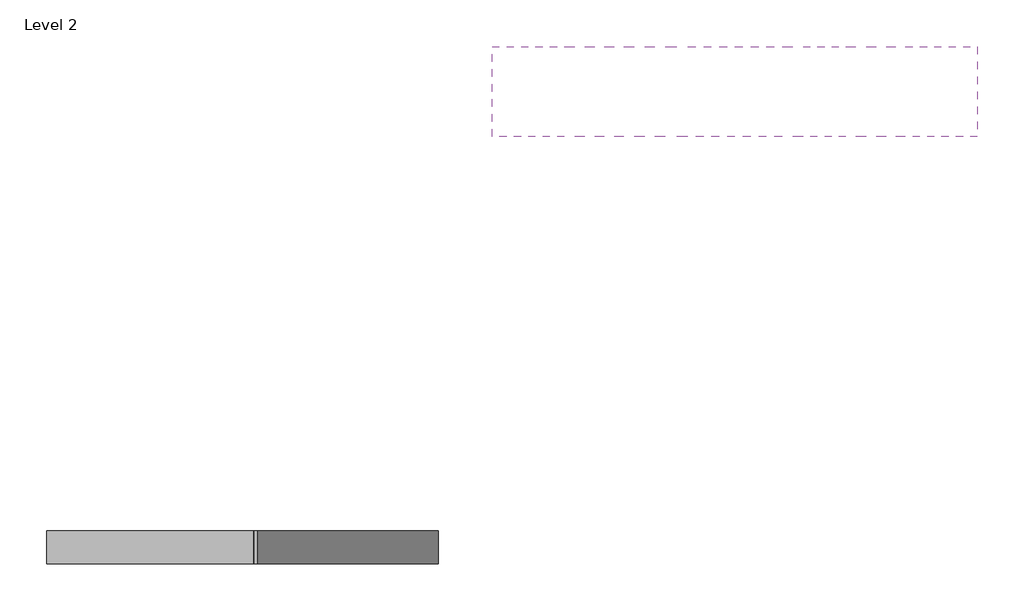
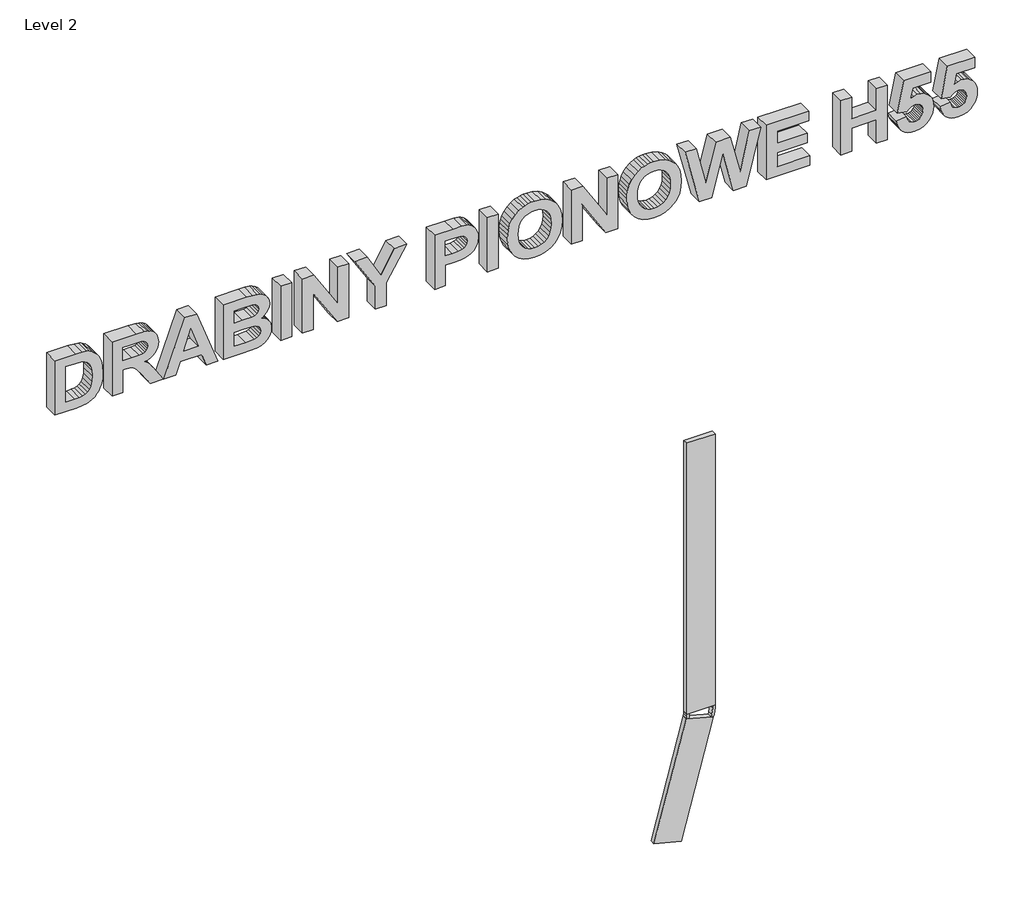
# One storey: 2 cable carrier segments, 1 cable carrier fitting, 1 proxy.
"""IFC4 building model written with IfcOpenShell, lengths in millimetres."""

from ifc_helpers import new_model, si_unit, frame, origin, place, context, project, spatial, polyline, outline, extrude, transform, mapped, element, save
from components import standard_x2_db8cc8cd

model = new_model("IFC4")

# Units and contexts
model_context = context("Model", 3, world=origin())
ifc_project = project(units=[si_unit("LENGTHUNIT", "METRE", prefix="MILLI")], contexts=[model_context])

# Site, building, storey
site = spatial("IfcSite", under=ifc_project)
building = spatial("IfcBuilding", under=site)
storey = spatial("IfcBuildingStorey", under=building, Name="Level 2", Elevation=4000.0)

# Proxy
placement = place(None, origin())
element("IfcBuildingElementProxy", 1, Name="600mm Arial", ObjectType="600mm Arial", at=placement, inside=storey, context=model_context, shape_type="SweptSolid", body=[
    extrude(outline(polyline([(9657.457041, 35660.5091859), (9045.301401, 35660.5091859), (9045.301401, 35893.8631587), (9048.5276677, 35955.6936112), (9058.2064679, 36003.6321388), (9079.2341355, 36052.8991292), (9107.0938974, 36090.7792959), (9129.3361597, 36110.9529518), (9154.7667325, 36128.6594626), (9183.385616, 36143.8988283), (9215.1928101, 36156.6710488), (9275.1634147, 36170.7907101), (9345.4580727, 36175.4972639), (9424.6913874, 36170.4680835), (9459.1697405, 36164.1816079), (9490.2225575, 36155.3805421), (9544.347926, 36130.6521567), (9567.9945631, 36114.8292164), (9589.3638355, 36096.7004442), (9608.0619489, 36076.4508761), (9623.6951089, 36054.265548), (9636.2633155, 36030.1444599), (9645.7665687, 36004.0876118), (9654.5344229, 35954.7447092), (9657.457041, 35887.1828888), (9657.457041, 35660.5091859)]), holes=[polyline([(9550.5727229, 35777.1102601), (9550.5727229, 35836.9290404), (9549.1303919, 35904.8324655), (9544.8033989, 35946.0907233), (9534.0997847, 35980.156304), (9516.5640763, 36007.6554832), (9491.5130642, 36029.1955579), (9458.2635391, 36045.3838256), (9412.8301127, 36055.5180986), (9351.2273967, 36058.8961896), (9288.7516909, 36055.5180986), (9241.0029437, 36045.3838256), (9206.2921096, 36029.9167234), (9182.930143, 36010.5401452), (9167.8426017, 35986.4570131), (9157.9550431, 35956.8702496), (9153.6280501, 35924.3798461), (9152.1857191, 35876.4033625), (9152.1857191, 35777.1102601), (9550.5727229, 35777.1102601)])]), frame((0.0, 3646.5667139, 0.0), z_axis=(0.0, 1.0, 0.0), x_axis=(0.0, 0.0, 1.0)), (0.0, 0.0, 1.0), 150.0),
    extrude(outline(polyline([(9045.301401, 36272.6648258), (9045.301401, 36389.2659001), (9297.937062, 36389.2659001), (9297.937062, 36415.9869796), (9296.3429067, 36455.4043675), (9291.5604407, 36482.561942), (9282.5079159, 36503.0202685), (9268.103584, 36522.3399126), (9238.8204691, 36549.1179263), (9185.1315956, 36591.9513613), (9045.301401, 36680.6167615), (9045.301401, 36816.8031725), (9164.0280157, 36741.9537849), (9224.2643129, 36705.2882128), (9262.8656451, 36676.9729779), (9289.5108125, 36649.6066451), (9313.8786151, 36615.7877788), (9321.8114356, 36651.4522594), (9333.9194247, 36682.3817192), (9350.2025826, 36708.5761581), (9370.6609091, 36730.0355762), (9394.7155741, 36746.7409954), (9421.7877473, 36758.6734377), (9451.8774288, 36765.8329031), (9484.9846186, 36768.2193915), (9511.5443848, 36766.5683021), (9536.5669298, 36761.6150338), (9560.0522536, 36753.3595866), (9582.0003562, 36741.8019606), (9601.5667149, 36727.4925189), (9617.9068068, 36710.9816246), (9631.0206321, 36692.2692777), (9640.9081906, 36671.3554783), (9648.1483127, 36646.0197956), (9653.3198284, 36614.0417992), (9657.457041, 36530.1588649), (9657.457041, 36272.6648258), (9045.301401, 36272.6648258)]), holes=[polyline([(9404.8213801, 36389.2659001), (9550.5727229, 36389.2659001), (9550.5727229, 36490.6845428), (9548.5990068, 36585.4229157), (9540.6092522, 36613.4345019), (9526.053096, 36634.3103453), (9505.4239671, 36647.2913242), (9479.2152947, 36651.6183172), (9455.5496795, 36648.3351164), (9436.1731012, 36638.485514), (9421.4840987, 36622.8096534), (9411.8812107, 36602.0476782), (9406.5863377, 36561.2259154), (9404.8213801, 36485.3706918), (9404.8213801, 36389.2659001)])]), frame((0.0, 3646.5667139, 0.0), z_axis=(0.0, 1.0, 0.0), x_axis=(0.0, 0.0, 1.0)), (0.0, 0.0, 1.0), 150.0),
    extrude(outline(polyline([(9045.301401, 37399.8085439), (9657.457041, 37174.1976111), (9657.457041, 37050.005321), (9045.301401, 36826.5199287), (9045.301401, 36950.7122187), (9181.3359877, 36998.0814051), (9181.3359877, 37229.3098376), (9045.301401, 37277.2863213), (9045.301401, 37399.8085439)]), holes=[polyline([(9288.2203058, 37191.961056), (9288.2203058, 37035.4301867), (9511.7056982, 37113.1642363), (9288.2203058, 37191.961056)])]), frame((0.0, 3646.5667139, 0.0), z_axis=(0.0, 1.0, 0.0), x_axis=(0.0, 0.0, 1.0)), (0.0, 0.0, 1.0), 150.0),
    extrude(outline(polyline([(9657.457041, 37458.109081), (9045.301401, 37458.109081), (9045.301401, 37667.3229877), (9049.4006576, 37817.0217628), (9059.3641283, 37862.5880355), (9078.3231897, 37900.2973998), (9105.7274786, 37930.5104386), (9141.0266319, 37953.5877346), (9180.8615367, 37968.219803), (9221.8730799, 37973.0971591), (9247.42701, 37971.3986246), (9271.2539385, 37966.303021), (9293.3538655, 37957.8103483), (9313.7267908, 37945.9206066), (9331.8128624, 37930.8710213), (9347.052228, 37912.898818), (9359.4448878, 37892.0039966), (9368.9908416, 37868.1865571), (9391.5747085, 37903.5426446), (9423.1921222, 37930.6622629), (9461.072289, 37947.9133008), (9502.4444149, 37953.6636467), (9540.4194718, 37948.8432247), (9574.4850526, 37934.3819586), (9603.4075847, 37912.6900596), (9625.9534956, 37886.1777385), (9641.9899389, 37855.3194464), (9651.3840684, 37820.5896342), (9655.9387979, 37774.4540203), (9657.457041, 37709.3783231), (9657.457041, 37458.109081)]), holes=[polyline([(9550.5727229, 37574.7101553), (9550.5727229, 37652.7478534), (9548.5990068, 37768.7416305), (9541.5961103, 37798.4422622), (9527.8749878, 37819.8305126), (9508.270673, 37832.7545575), (9483.6181998, 37837.0625724), (9457.8460223, 37832.0713481), (9437.6154322, 37817.0976749), (9423.6096391, 37793.4320598), (9416.5118524, 37762.3650092), (9414.5381363, 37663.6792042), (9414.5381363, 37574.7101553), (9550.5727229, 37574.7101553)]), polyline([(9307.6538182, 37574.7101553), (9307.6538182, 37682.353595), (9305.5662338, 37757.3548068), (9299.3034808, 37800.4729124), (9288.4859983, 37824.4611542), (9272.7342256, 37842.0727748), (9252.5415917, 37852.8902573), (9228.4015255, 37856.4960848), (9200.5607416, 37851.8274871), (9178.9827108, 37837.821694), (9163.9710816, 37816.3765094), (9155.8295027, 37789.3897374), (9152.1857191, 37697.9914995), (9152.1857191, 37574.7101553), (9307.6538182, 37574.7101553)])]), frame((0.0, 3646.5667139, 0.0), z_axis=(0.0, 1.0, 0.0), x_axis=(0.0, 0.0, 1.0)), (0.0, 0.0, 1.0), 150.0),
    extrude(outline(polyline([(38186.8657953, 3646.5667139), (38070.264721, 3646.5667139), (38070.264721, 3796.5667139), (38186.8657953, 3796.5667139), (38186.8657953, 3646.5667139)])), frame((0.0, 0.0, 9045.301401), z_axis=(0.0, 0.0, 1.0), x_axis=(1.0, 0.0, 0.0)), (0.0, 0.0, 1.0), 612.15564),
    extrude(outline(polyline([(9045.301401, 38303.4668696), (9045.301401, 38420.0679438), (9451.2796206, 38420.0679438), (9045.301401, 38673.0072534), (9045.301401, 38799.0214352), (9657.457041, 38799.0214352), (9657.457041, 38682.420361), (9245.4058488, 38682.420361), (9657.457041, 38425.6854435), (9657.457041, 38303.4668696), (9045.301401, 38303.4668696)])), frame((0.0, 3646.5667139, 0.0), z_axis=(0.0, 1.0, 0.0), x_axis=(0.0, 0.0, 1.0)), (0.0, 0.0, 1.0), 150.0),
    extrude(outline(polyline([(9045.301401, 39080.8073648), (9045.301401, 39197.408439), (9302.0363185, 39197.408439), (9657.457041, 39416.0354533), (9657.457041, 39280.9118125), (9405.8841503, 39138.8042533), (9657.457041, 38997.3039912), (9657.457041, 38862.1803505), (9302.9472644, 39080.8073648), (9045.301401, 39080.8073648)])), frame((0.0, 3646.5667139, 0.0), z_axis=(0.0, 1.0, 0.0), x_axis=(0.0, 0.0, 1.0)), (0.0, 0.0, 1.0), 150.0),
    extrude(outline(polyline([(9045.301401, 39712.3965171), (9045.301401, 39828.9975914), (9278.5035496, 39828.9975914), (9278.5035496, 39910.6790731), (9280.6670461, 39985.6423289), (9287.1575356, 40040.4888628), (9297.95604, 40073.1880248), (9316.0800677, 40105.3937577), (9341.9661135, 40134.5440263), (9376.0506723, 40158.0767952), (9396.2575398, 40167.1435535), (9418.6943269, 40173.6198095), (9470.25766, 40178.8008142), (9504.8783485, 40176.5946171), (9536.168391, 40169.9760259), (9564.1277876, 40158.9450405), (9588.7565383, 40143.5016609), (9609.7035493, 40124.7845695), (9626.6177269, 40103.9324487), (9639.4990712, 40080.9452984), (9648.3475821, 40055.8231187), (9655.1796763, 40002.2670914), (9657.457041, 39909.6163029), (9657.457041, 39712.3965171), (9045.301401, 39712.3965171)]), holes=[polyline([(9550.5727229, 39828.9975914), (9550.5727229, 39892.9156282), (9546.6252907, 39988.109474), (9537.591744, 40017.3925888), (9520.8151571, 40041.1720723), (9497.3962564, 40056.942823), (9468.4357683, 40062.19974), (9444.2008119, 40058.4610662), (9423.1162101, 40047.2450449), (9406.206777, 40029.4436439), (9394.4973266, 40005.9488311), (9387.6652324, 39966.6453114), (9385.3878677, 39901.4177899), (9385.3878677, 39828.9975914), (9550.5727229, 39828.9975914)])]), frame((0.0, 3646.5667139, 0.0), z_axis=(0.0, 1.0, 0.0), x_axis=(0.0, 0.0, 1.0)), (0.0, 0.0, 1.0), 150.0),
    extrude(outline(polyline([(40392.5694504, 3646.5667139), (40275.9683761, 3646.5667139), (40275.9683761, 3796.5667139), (40392.5694504, 3796.5667139), (40392.5694504, 3646.5667139)])), frame((0.0, 0.0, 9045.301401), z_axis=(0.0, 0.0, 1.0), x_axis=(1.0, 0.0, 0.0)), (0.0, 0.0, 1.0), 612.15564),
    extrude(outline(polyline([(9347.5836131, 40489.7370123), (9278.6221623, 40494.6807916), (9217.4891528, 40509.5121294), (9164.1845846, 40534.2310258), (9118.7084576, 40568.8374807), (9082.3417895, 40611.82274), (9056.365598, 40661.6780496), (9040.7798831, 40718.4034095), (9035.5846448, 40781.9988196), (9040.8036057, 40844.9299984), (9056.4604882, 40901.1809072), (9082.5552924, 40950.7515462), (9119.0880184, 40993.6419154), (9140.9720701, 41012.1810876), (9164.8725385, 41028.2483703), (9218.7227254, 41052.9672666), (9280.638579, 41067.7986044), (9350.6200994, 41072.7423837), (9421.0808154, 41067.7606484), (9483.3714853, 41052.8154423), (9537.4921092, 41027.9067656), (9561.488654, 41011.7161257), (9583.4426872, 40993.0346181), (9620.0750478, 40949.8595784), (9646.2410197, 40900.0422249), (9661.9406028, 40843.5825576), (9667.1737972, 40780.4805764), (9665.6650431, 40744.8208403), (9661.1387807, 40711.3246007), (9653.59501, 40679.9918576), (9643.033731, 40650.822611), (9620.3170178, 40610.3044968), (9587.9974167, 40573.1644737), (9548.5041166, 40541.4521698), (9504.2663067, 40517.2172134), (9470.732111, 40505.1946254), (9433.4402635, 40496.6070626), (9392.3907642, 40491.4545249), (9347.5836131, 40489.7370123)]), holes=[polyline([(9351.834694, 40606.3380866), (9400.8454808, 40609.3555949), (9443.270888, 40618.4081197), (9479.1109154, 40633.495661), (9508.3655632, 40654.6182189), (9531.0822764, 40680.6750671), (9547.3085001, 40710.5654792), (9557.0442344, 40744.2894552), (9560.2894791, 40781.8469953), (9557.0821904, 40819.3665792), (9547.4603245, 40852.9766871), (9531.4238811, 40882.6773188), (9508.9728605, 40908.4684744), (9480.0123723, 40929.3253397), (9444.4475264, 40944.2231007), (9402.2783228, 40953.1617572), (9353.5047614, 40956.1413094), (9304.0432462, 40953.0811006), (9261.1765996, 40943.900474), (9224.9048217, 40928.5994297), (9195.2279126, 40907.1779677), (9172.1458721, 40880.9835288), (9155.6587003, 40851.3635537), (9145.7663973, 40818.3180426), (9142.4689629, 40781.8469953), (9145.7901198, 40745.3379919), (9155.7535905, 40712.1786125), (9172.359375, 40682.3688571), (9195.6074734, 40655.9087256), (9225.298616, 40634.221571), (9261.2335337, 40618.7307463), (9303.4122264, 40609.4362515), (9351.834694, 40606.3380866)])]), frame((0.0, 3646.5667139, 0.0), z_axis=(0.0, 1.0, 0.0), x_axis=(0.0, 0.0, 1.0)), (0.0, 0.0, 1.0), 150.0),
    extrude(outline(polyline([(9045.301401, 41169.9099456), (9045.301401, 41286.5110199), (9451.2796206, 41286.5110199), (9045.301401, 41539.4503295), (9045.301401, 41665.4645113), (9657.457041, 41665.4645113), (9657.457041, 41548.863437), (9245.4058488, 41548.863437), (9657.457041, 41292.1285196), (9657.457041, 41169.9099456), (9045.301401, 41169.9099456)])), frame((0.0, 3646.5667139, 0.0), z_axis=(0.0, 1.0, 0.0), x_axis=(0.0, 0.0, 1.0)), (0.0, 0.0, 1.0), 150.0),
    extrude(outline(polyline([(9347.5836131, 41762.6320732), (9278.6221623, 41767.5758525), (9217.4891528, 41782.4071903), (9164.1845846, 41807.1260867), (9118.7084576, 41841.7325416), (9082.3417895, 41884.7178009), (9056.365598, 41934.5731105), (9040.7798831, 41991.2984704), (9035.5846448, 42054.8938805), (9040.8036057, 42117.8250593), (9056.4604882, 42174.0759681), (9082.5552924, 42223.6466071), (9119.0880184, 42266.5369763), (9140.9720701, 42285.0761485), (9164.8725385, 42301.1434312), (9218.7227254, 42325.8623275), (9280.638579, 42340.6936653), (9350.6200994, 42345.6374446), (9421.0808154, 42340.6557093), (9483.3714853, 42325.7105032), (9537.4921092, 42300.8018265), (9561.488654, 42284.6111866), (9583.4426872, 42265.929679), (9620.0750478, 42222.7546393), (9646.2410197, 42172.9372858), (9661.9406028, 42116.4776185), (9667.1737972, 42053.3756373), (9665.6650431, 42017.7159012), (9661.1387807, 41984.2196616), (9653.59501, 41952.8869185), (9643.033731, 41923.7176719), (9620.3170178, 41883.1995577), (9587.9974167, 41846.0595346), (9548.5041166, 41814.3472307), (9504.2663067, 41790.1122743), (9470.732111, 41778.0896863), (9433.4402635, 41769.5021235), (9392.3907642, 41764.3495858), (9347.5836131, 41762.6320732)]), holes=[polyline([(9351.834694, 41879.2331475), (9400.8454808, 41882.2506558), (9443.270888, 41891.3031806), (9479.1109154, 41906.3907219), (9508.3655632, 41927.5132798), (9531.0822764, 41953.570128), (9547.3085001, 41983.4605401), (9557.0442344, 42017.1845161), (9560.2894791, 42054.7420562), (9557.0821904, 42092.2616401), (9547.4603245, 42125.871748), (9531.4238811, 42155.5723797), (9508.9728605, 42181.3635353), (9480.0123723, 42202.2204006), (9444.4475264, 42217.1181616), (9402.2783228, 42226.0568181), (9353.5047614, 42229.0363703), (9304.0432462, 42225.9761615), (9261.1765996, 42216.7955349), (9224.9048217, 42201.4944906), (9195.2279126, 42180.0730286), (9172.1458721, 42153.8785897), (9155.6587003, 42124.2586146), (9145.7663973, 42091.2131035), (9142.4689629, 42054.7420562), (9145.7901198, 42018.2330528), (9155.7535905, 41985.0736734), (9172.359375, 41955.263918), (9195.6074734, 41928.8037865), (9225.298616, 41907.1166319), (9261.2335337, 41891.6258072), (9303.4122264, 41882.3313124), (9351.834694, 41879.2331475)])]), frame((0.0, 3646.5667139, 0.0), z_axis=(0.0, 1.0, 0.0), x_axis=(0.0, 0.0, 1.0)), (0.0, 0.0, 1.0), 150.0),
    extrude(outline(polyline([(9045.301401, 42538.6061496), (9045.301401, 42672.0597229), (9502.8998879, 42787.7498513), (9045.301401, 42901.1626149), (9045.301401, 43039.1709177), (9657.457041, 43190.9952332), (9657.457041, 43071.3576726), (9229.9197687, 42972.3682189), (9657.457041, 42866.3948467), (9657.457041, 42709.5603288), (9236.9036872, 42603.1314837), (9657.457041, 42504.14203), (9657.457041, 42384.5044694), (9045.301401, 42538.6061496)])), frame((0.0, 3646.5667139, 0.0), z_axis=(0.0, 1.0, 0.0), x_axis=(0.0, 0.0, 1.0)), (0.0, 0.0, 1.0), 150.0),
    extrude(outline(polyline([(9045.301401, 43249.2957703), (9045.301401, 43715.7000674), (9152.1857191, 43715.7000674), (9152.1857191, 43365.8968446), (9307.6538182, 43365.8968446), (9307.6538182, 43686.5497988), (9414.5381363, 43686.5497988), (9414.5381363, 43365.8968446), (9550.5727229, 43365.8968446), (9550.5727229, 43705.9833112), (9657.457041, 43705.9833112), (9657.457041, 43249.2957703), (9045.301401, 43249.2957703)])), frame((0.0, 3646.5667139, 0.0), z_axis=(0.0, 1.0, 0.0), x_axis=(0.0, 0.0, 1.0)), (0.0, 0.0, 1.0), 150.0),
    extrude(outline(polyline([(9045.301401, 44046.0697779), (9045.301401, 44162.6708522), (9307.6538182, 44162.6708522), (9307.6538182, 44425.0232693), (9045.301401, 44425.0232693), (9045.301401, 44541.6243436), (9657.457041, 44541.6243436), (9657.457041, 44425.0232693), (9414.5381363, 44425.0232693), (9414.5381363, 44162.6708522), (9657.457041, 44162.6708522), (9657.457041, 44046.0697779), (9045.301401, 44046.0697779)])), frame((0.0, 3646.5667139, 0.0), z_axis=(0.0, 1.0, 0.0), x_axis=(0.0, 0.0, 1.0)), (0.0, 0.0, 1.0), 150.0),
    extrude(outline(polyline([(9217.6219991, 44638.7919055), (9178.0717649, 44646.4732669), (9142.7726116, 44659.3451222), (9111.7245391, 44677.4074712), (9084.9275474, 44700.660314), (9063.3400275, 44728.4014632), (9047.9203705, 44759.9287312), (9038.6685763, 44795.2421181), (9035.5846448, 44834.3416238), (9040.4999571, 44882.8589816), (9055.2458937, 44925.7778178), (9079.8224548, 44963.0981323), (9114.2296403, 44994.8199253), (9144.0536292, 45013.3519808), (9175.8323563, 45026.5891633), (9209.5658214, 45034.5314728), (9245.2540245, 45037.1789093), (9287.2287032, 45034.0000877), (9325.0946364, 45024.4636228), (9358.8518241, 45008.5695148), (9388.5002662, 44986.3177636), (9412.6450768, 44959.5017939), (9429.8913702, 44929.9150304), (9440.2391462, 44897.5574732), (9443.6884048, 44862.4291222), (9437.7293005, 44824.4350872), (9419.8519873, 44787.276086), (9531.1392105, 44810.8088549), (9531.1392105, 45008.0286407), (9647.7402848, 45008.0286407), (9647.7402848, 44716.525955), (9303.250913, 44648.5086617), (9288.2203058, 44749.6236558), (9309.47571, 44769.0761462), (9324.6581415, 44789.7811872), (9333.7676004, 44811.7387788), (9336.8040867, 44834.9489211), (9335.3332887, 44853.1061603), (9330.9208945, 44869.4699748), (9323.5669042, 44884.0403646), (9313.2713178, 44896.8173296), (9300.0341353, 44907.2125507), (9283.8553567, 44914.6377086), (9264.734982, 44919.0928034), (9242.6730112, 44920.577835), (9219.1260087, 44918.9789352), (9198.7388499, 44914.1822357), (9181.5115346, 44906.1877366), (9167.4440628, 44894.9954378), (9156.5174566, 44881.4973073), (9148.7127379, 44866.5853128), (9144.0299067, 44850.2594544), (9142.4689629, 44832.519732), (9148.3521552, 44802.0789568), (9166.0017318, 44775.4337894), (9178.8213975, 44764.2936802), (9193.7476255, 44755.6207162), (9229.9197687, 44745.6762236), (9217.6219991, 44638.7919055)])), frame((0.0, 3646.5667139, 0.0), z_axis=(0.0, 1.0, 0.0), x_axis=(0.0, 0.0, 1.0)), (0.0, 0.0, 1.0), 150.0),
    extrude(outline(polyline([(9217.6219991, 45105.1962026), (9178.0717649, 45112.8775641), (9142.7726116, 45125.7494193), (9111.7245391, 45143.8117683), (9084.9275474, 45167.0646112), (9063.3400275, 45194.8057603), (9047.9203705, 45226.3330283), (9038.6685763, 45261.6464152), (9035.5846448, 45300.7459209), (9040.4999571, 45349.2632787), (9055.2458937, 45392.1821149), (9079.8224548, 45429.5024295), (9114.2296403, 45461.2242224), (9144.0536292, 45479.7562779), (9175.8323563, 45492.9934604), (9209.5658214, 45500.9357699), (9245.2540245, 45503.5832064), (9287.2287032, 45500.4043848), (9325.0946364, 45490.86792), (9358.8518241, 45474.9738119), (9388.5002662, 45452.7220607), (9412.6450768, 45425.906091), (9429.8913702, 45396.3193275), (9440.2391462, 45363.9617703), (9443.6884048, 45328.8334193), (9437.7293005, 45290.8393843), (9419.8519873, 45253.6803831), (9531.1392105, 45277.213152), (9531.1392105, 45474.4329378), (9647.7402848, 45474.4329378), (9647.7402848, 45182.9302521), (9303.250913, 45114.9129588), (9288.2203058, 45216.0279529), (9309.47571, 45235.4804433), (9324.6581415, 45256.1854843), (9333.7676004, 45278.143076), (9336.8040867, 45301.3532182), (9335.3332887, 45319.5104574), (9330.9208945, 45335.8742719), (9323.5669042, 45350.4446617), (9313.2713178, 45363.2216267), (9300.0341353, 45373.6168478), (9283.8553567, 45381.0420058), (9264.734982, 45385.4971005), (9242.6730112, 45386.9821321), (9219.1260087, 45385.3832323), (9198.7388499, 45380.5865328), (9181.5115346, 45372.5920337), (9167.4440628, 45361.399735), (9156.5174566, 45347.9016044), (9148.7127379, 45332.9896099), (9144.0299067, 45316.6637515), (9142.4689629, 45298.9240291), (9148.3521552, 45268.4832539), (9166.0017318, 45241.8380865), (9178.8213975, 45230.6979774), (9193.7476255, 45222.0250134), (9229.9197687, 45212.0805207), (9217.6219991, 45105.1962026)])), frame((0.0, 3646.5667139, 0.0), z_axis=(0.0, 1.0, 0.0), x_axis=(0.0, 0.0, 1.0)), (0.0, 0.0, 1.0), 150.0),
])

# Cable carrier fitting
standard_x2_shape = standard_x2_db8cc8cd(model_context)
element("IfcCableCarrierFitting", 2, ObjectType="BAKS_Łącznik_kątowy : Standard x2", at=placement, inside=storey, context=model_context, shape_type="MappedRepresentation", body=[
    mapped(standard_x2_shape, transform((42144.8189034, 2964.3646331, 3837.7907869), x_axis=(0.0, 0.0, -1.0), y_axis=(-1.0, 0.0, 0.0), z_axis=(0.0, 1.0, 0.0))),
])

# Cable carrier segments
element("IfcCableCarrierSegment", 3, ObjectType="BAKS - drabina pionowa H55 1-str (DMC/3)", at=placement, inside=storey, context=model_context, shape_type="SweptSolid", body=[
    extrude(outline(polyline([(41994.8189034, 2936.8646331), (41994.8189034, 2991.8646331), (42294.8189034, 2991.8646331), (42294.8189034, 2936.8646331), (41994.8189034, 2936.8646331)])), frame((0.0, 0.0, 3882.8019665), z_axis=(0.0, 0.0, 1.0), x_axis=(1.0, 0.0, 0.0)), (0.0, 0.0, 1.0), 3058.0596669),
])
element("IfcCableCarrierSegment", 4, ObjectType="BAKS - drabina pionowa H55 1-str (DMC/3)", at=placement, inside=storey, context=model_context, shape_type="SweptSolid", body=[
    extrude(outline(polyline([(-150.0000001, 125.0), (-150.0000001, 180.0), (149.9999999, 180.0), (149.9999999, 125.0), (-150.0000001, 125.0)])), frame((41788.4445877, 2811.8646331, 2507.7837341), z_axis=(0.25881904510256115, 0.0, 0.9659258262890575), x_axis=(0.9659258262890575, 0.0, -0.25881904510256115)), (0.0, 0.0, 1.0), 1331.9134419),
])

save(model, "model.ifc")
